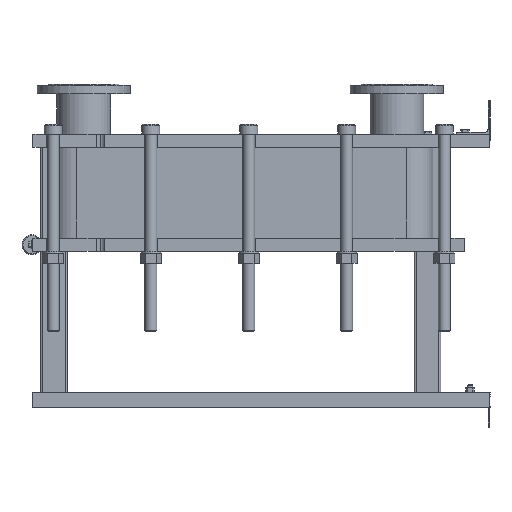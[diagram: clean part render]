
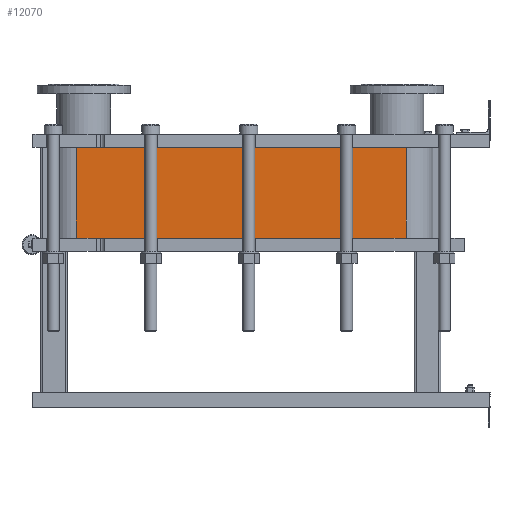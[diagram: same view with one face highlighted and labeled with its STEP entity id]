
A CAD part, left-side view. The second image highlights one B-rep face of the part: STEP entity #12070.
In plain terms, the highlighted planar face has unit normal (-1, 0, 0).
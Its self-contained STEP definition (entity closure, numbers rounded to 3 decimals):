
#1064=LINE('',#21140,#2164);
#1065=LINE('',#21144,#2165);
#1066=LINE('',#21146,#2166);
#1067=LINE('',#21147,#2167);
#2164=VECTOR('',#15790,10.);
#2165=VECTOR('',#15795,10.);
#2166=VECTOR('',#15796,10.);
#2167=VECTOR('',#15797,10.);
#3304=FACE_OUTER_BOUND('',#4091,.T.);
#4091=EDGE_LOOP('',(#9793,#9794,#9795,#9796));
#5677=VERTEX_POINT('',#21137);
#5678=VERTEX_POINT('',#21139);
#5679=VERTEX_POINT('',#21143);
#5680=VERTEX_POINT('',#21145);
#7118=EDGE_CURVE('',#5678,#5677,#1064,.T.);
#7120=EDGE_CURVE('',#5677,#5679,#1065,.T.);
#7121=EDGE_CURVE('',#5680,#5679,#1066,.T.);
#7122=EDGE_CURVE('',#5680,#5678,#1067,.T.);
#9793=ORIENTED_EDGE('',*,*,#7120,.T.);
#9794=ORIENTED_EDGE('',*,*,#7121,.F.);
#9795=ORIENTED_EDGE('',*,*,#7122,.T.);
#9796=ORIENTED_EDGE('',*,*,#7118,.T.);
#11441=PLANE('',#13191);
#12070=ADVANCED_FACE('',(#3304),#11441,.T.);
#13191=AXIS2_PLACEMENT_3D('',#21142,#15793,#15794);
#15790=DIRECTION('',(0.,0.,-1.));
#15793=DIRECTION('center_axis',(-1.,0.,0.));
#15794=DIRECTION('ref_axis',(0.,1.,0.));
#15795=DIRECTION('',(0.,-1.,0.));
#15796=DIRECTION('',(0.,0.,-1.));
#15797=DIRECTION('',(0.,1.,0.));
#21137=CARTESIAN_POINT('',(-248.152,1243.818,-272.55));
#21139=CARTESIAN_POINT('',(-248.152,1243.818,0.));
#21140=CARTESIAN_POINT('',(-248.152,1243.818,0.));
#21142=CARTESIAN_POINT('Origin',(-248.152,251.818,0.));
#21143=CARTESIAN_POINT('',(-248.152,251.818,-272.55));
#21144=CARTESIAN_POINT('',(-248.152,499.818,-272.55));
#21145=CARTESIAN_POINT('',(-248.152,251.818,0.));
#21146=CARTESIAN_POINT('',(-248.152,251.818,0.));
#21147=CARTESIAN_POINT('',(-248.152,251.818,0.));
